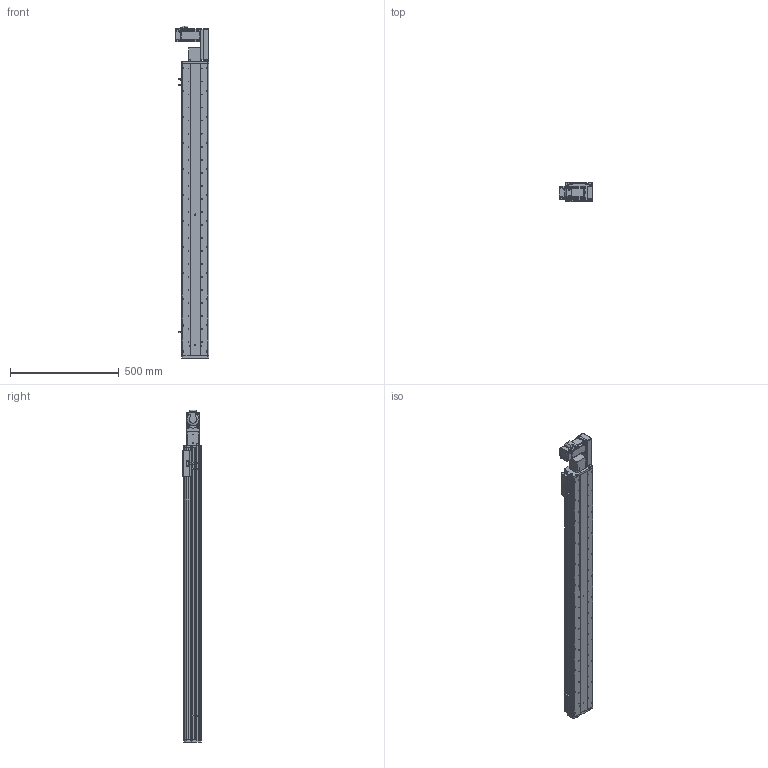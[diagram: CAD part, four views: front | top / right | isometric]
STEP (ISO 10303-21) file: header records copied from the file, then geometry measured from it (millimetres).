
FILE_DESCRIPTION (( 'STEP AP214' ), '1' );
FILE_NAME ('KSD125B-S1150-MLB-CM.STEP', '2017-10-21T01:57:15', ( '微软用户' ), ( '微软中国' ), 'SwSTEP 2.0', 'SolidWorks 2014', '' );
FILE_SCHEMA (( 'AUTOMOTIVE_DESIGN' ));
Length unit declared in the file: millimetre
Products named in the file (17): HTPA30S3M150_A_H6_a佪裝蚚; HTPA30S3M150_A_H6_a萇儂蚚; 100宽马达安装板连板上下折丝杆同步带; 100宽马达安装板同步带左; KSD125模组1150行程同步带-防尘盖; 125模组1150行程同步带-底板; MHMD042G1CA_2_03; KSD125模组同步带-防撞垫2; 覜茼え68遵圉猾敕; U倰嫖萇假蚾璃; U倰嫖萇EEㄜSX672; KSD125模组同步带-防撞垫1; 前端板-125宽模组同步带; 125模组同步带-尾端板1; KSD125模组同步带-滑动座1; KSD125B-S1150-MLB-CM; 悵誘欶奻狟殏
Assembly tree (20 placements, depth 2):
  KSD125B-S1150-MLB-CM
    KSD125模组同步带-滑动座1
    125模组同步带-尾端板1
    前端板-125宽模组同步带
    KSD125模组同步带-防撞垫1
    U倰嫖萇EEㄜSX672  x3
    U倰嫖萇假蚾璃  x3
    覜茼え68遵圉猾敕
    KSD125模组同步带-防撞垫2
    MHMD042G1CA_2_03
    125模组1150行程同步带-底板
    KSD125模组1150行程同步带-防尘盖
    100宽马达安装板同步带左
    100宽马达安装板连板上下折丝杆同步带
    HTPA30S3M150_A_H6_a萇儂蚚
    HTPA30S3M150_A_H6_a佪裝蚚
    悵誘欶奻狟殏
Bounding box: 155 x 86 x 1528 mm (x, y, z)
Volume: 4324261 mm3; surface area: 1447773.7 mm2
Topology: 19 solids, 22 shells, 2343 faces, 6793 edges, 4490 vertices
Faces by surface type: cylinder 1484, plane 732, cone 105, bspline 22
Entity records: 83651 total; most frequent: CARTESIAN_POINT 16491, DIRECTION 12998, ORIENTED_EDGE 12106, EDGE_CURVE 6131, AXIS2_PLACEMENT_3D 5037, VERTEX_POINT 4082, VECTOR 2924, LINE 2924
